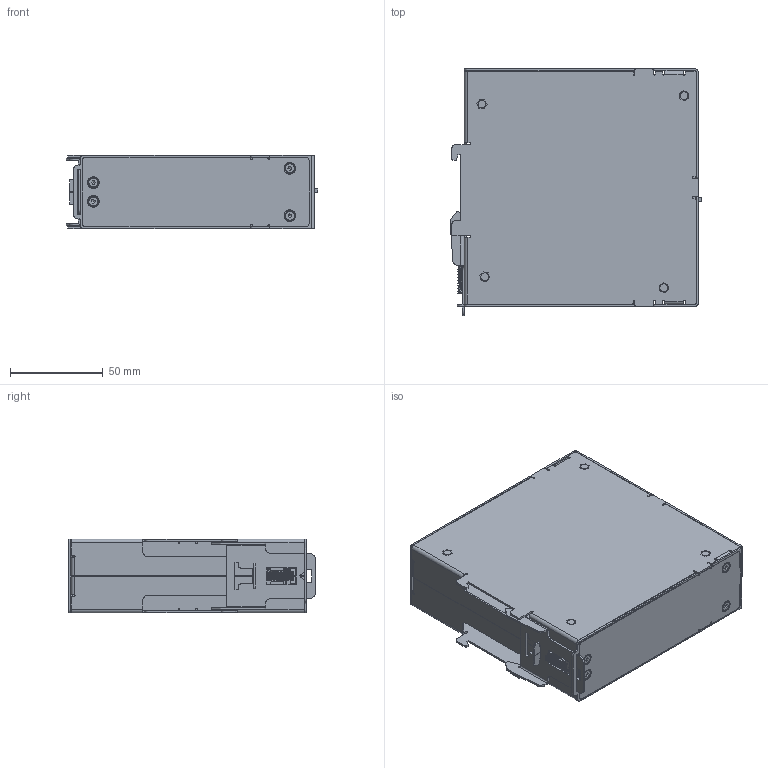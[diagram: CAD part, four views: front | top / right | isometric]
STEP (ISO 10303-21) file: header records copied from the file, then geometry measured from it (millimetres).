
FILE_DESCRIPTION (( 'STEP AP214' ), '1' );
FILE_NAME ('CB-ISO-01.STEP', '2023-03-02T18:46:30', ( '' ), ( '' ), 'SwSTEP 2.0', 'SolidWorks 2019', '' );
FILE_SCHEMA (( 'AUTOMOTIVE_DESIGN' ));
Length unit declared in the file: millimetre
Products named in the file (1): CB-ISO-01
Bounding box: 135.78 x 133.35 x 39.6 mm (x, y, z)
Volume: 86298.7 mm3; surface area: 173614.5 mm2
Topology: 58 solids, 58 shells, 4258 faces, 11203 edges, 7282 vertices
Faces by surface type: plane 2320, cylinder 1101, bspline 581, cone 152, torus 84, sphere 20
Entity records: 213123 total; most frequent: CARTESIAN_POINT 62324, ORIENTED_EDGE 22334, DIRECTION 19597, EDGE_CURVE 11167, VERTEX_POINT 7282, LINE 7261, VECTOR 7261, AXIS2_PLACEMENT_3D 6168
